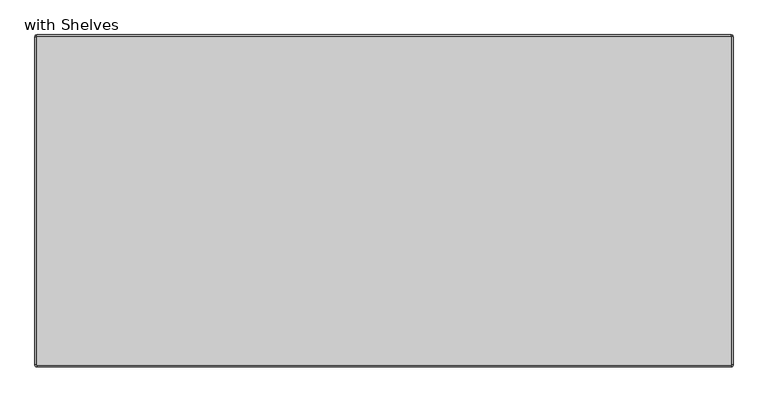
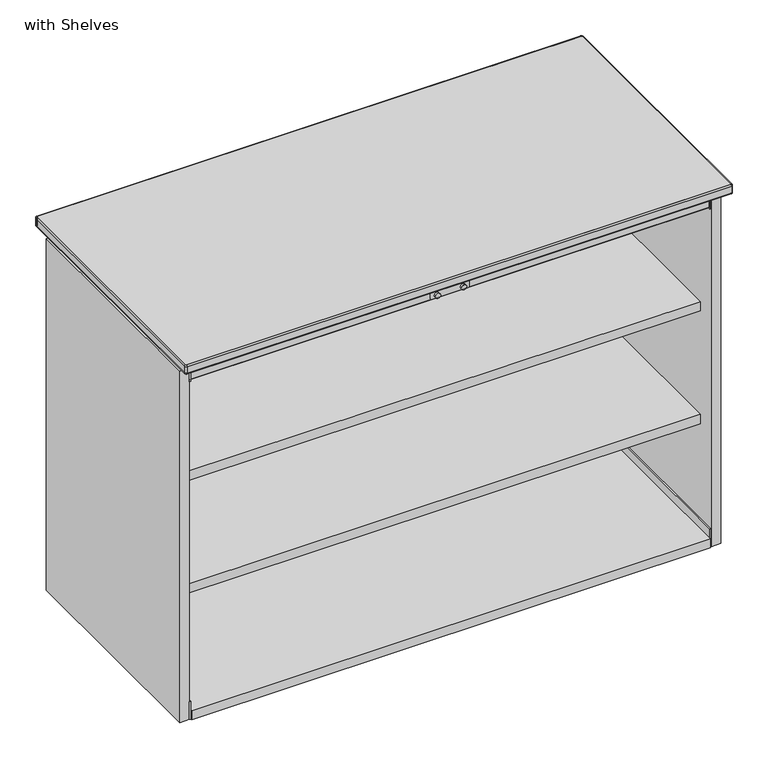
"""IFC4 building model written with IfcOpenShell, lengths in millimetres: furniture geometry, SmithSystem_AM_Storage_Education_Constellate_StandAlone_MidUnit : with Shelves."""

from ifc_helpers import new_model, si_unit, point, frame, frame_2d, origin, place, context, project, spatial, polyline, circle_curve, ellipse_curve, trimmed, segment, composite_curve, outline, extrude, source, transform, mapped, element, save
from ifc_brep_helpers import plane_surface, cylinder_surface, revolved_surface, advanced_brep


def with_shelves_f9349fdc(model_context):
    return source(origin(), model_context, "Body", "SolidModel", [
        extrude(outline(composite_curve([segment(polyline([(-530.86, -250.952), (-530.86, 250.952)]), True, "CONTINUOUS"), segment(trimmed(circle_curve(frame_2d((-530.352, 250.952)), 0.508), [point((-530.86, 250.952))], [point((-530.352, 251.46))], False, "CARTESIAN"), True, "CONTINUOUS"), segment(polyline([(-530.352, 251.46), (530.352, 251.46)]), True, "CONTINUOUS"), segment(trimmed(circle_curve(frame_2d((530.352, 250.952)), 0.508), [point((530.352, 251.46))], [point((530.86, 250.952))], False, "CARTESIAN"), True, "CONTINUOUS"), segment(polyline([(530.86, 250.952), (530.86, -250.952)]), True, "CONTINUOUS"), segment(trimmed(circle_curve(frame_2d((530.352, -250.952)), 0.508), [point((530.86, -250.952))], [point((530.352, -251.46))], False, "CARTESIAN"), True, "CONTINUOUS"), segment(polyline([(530.352, -251.46), (-530.352, -251.46)]), True, "CONTINUOUS"), segment(trimmed(circle_curve(frame_2d((-530.352, -250.952)), 0.508), [point((-530.352, -251.46))], [point((-530.86, -250.952))], False, "CARTESIAN"), True, "CONTINUOUS")], self_intersect=False)), frame((0.0, 0.0, 793.75), z_axis=(0.0, 0.0, 1.0), x_axis=(1.0, 0.0, 0.0)), (0.0, 0.0, 1.0), 19.05),
        advanced_brep(
        [(-530.352, -251.46, 812.8), (-530.86, -250.952, 812.8), (-533.4, -250.952, 810.26), (-530.352, -254.0, 810.26), (-530.352, -251.46, 793.75), (-530.86, -250.952, 793.75), (-530.352, -254.0, 796.29), (-533.4, -250.952, 796.29), (530.352, -254.0, 810.26), (530.352, -251.46, 812.8), (530.352, -251.46, 793.75), (530.352, -254.0, 796.29), (530.86, -250.952, 812.8), (533.4, -250.952, 810.26), (530.86, -250.952, 793.75), (533.4, -250.952, 796.29), (533.4, 250.952, 810.26), (530.86, 250.952, 812.8), (530.86, 250.952, 793.75), (533.4, 250.952, 796.29), (530.352, 251.46, 812.8), (530.352, 254.0, 810.26), (530.352, 251.46, 793.75), (530.352, 254.0, 796.29), (-530.352, 254.0, 810.26), (-530.352, 251.46, 812.8), (-530.352, 251.46, 793.75), (-530.352, 254.0, 796.29), (-530.86, 250.952, 812.8), (-533.4, 250.952, 810.26), (-530.86, 250.952, 793.75), (-533.4, 250.952, 796.29)],
        [
            (0, 1, circle_curve(frame((-530.352, -250.952, 812.8), z_axis=(0.0, 0.0, -1.0), x_axis=(-1.0, 0.0, 0.0)), 0.508)),
            (1, 2, circle_curve(frame((-530.86, -250.952, 810.26), z_axis=(0.0, -1.0, 0.0), x_axis=(1.0, 0.0, 0.0)), 2.54)),
            (2, 3, circle_curve(frame((-530.352, -250.952, 810.26), z_axis=(0.0, 0.0, 1.0), x_axis=(-1.0, 0.0, 0.0)), 3.048)),
            (3, 0, circle_curve(frame((-530.352, -251.46, 810.26), z_axis=(-1.0, 0.0, 0.0), x_axis=(0.0, 1.0, 0.0)), 2.54)),
            (4, 5, circle_curve(frame((-530.352, -250.952, 793.75), z_axis=(0.0, 0.0, -1.0), x_axis=(-1.0, 0.0, 0.0)), 0.508)),
            (5, 1),
            (0, 4),
            (6, 7, circle_curve(frame((-530.352, -250.952, 796.29), z_axis=(0.0, 0.0, -1.0), x_axis=(-1.0, 0.0, 0.0)), 3.048)),
            (7, 5, circle_curve(frame((-530.86, -250.952, 796.29), z_axis=(0.0, -1.0, 0.0), x_axis=(1.0, 0.0, 0.0)), 2.54)),
            (4, 6, circle_curve(frame((-530.352, -251.46, 796.29), z_axis=(-1.0, 0.0, 0.0), x_axis=(0.0, 1.0, 0.0)), 2.54)),
            (2, 7),
            (6, 3),
            (3, 8),
            (8, 9, circle_curve(frame((530.352, -251.46, 810.26), z_axis=(-1.0, 0.0, 0.0), x_axis=(0.0, 1.0, 0.0)), 2.54)),
            (9, 0),
            (9, 10),
            (10, 4),
            (10, 11, circle_curve(frame((530.352, -251.46, 796.29), z_axis=(-1.0, 0.0, 0.0), x_axis=(0.0, 1.0, 0.0)), 2.54)),
            (11, 6),
            (11, 8),
            (12, 9, circle_curve(frame((530.352, -250.952, 812.8), z_axis=(0.0, 0.0, -1.0), x_axis=(0.0, -1.0, 0.0)), 0.508)),
            (8, 13, circle_curve(frame((530.352, -250.952, 810.26), z_axis=(0.0, 0.0, 1.0), x_axis=(0.0, -1.0, 0.0)), 3.048)),
            (13, 12, circle_curve(frame((530.86, -250.952, 810.26), z_axis=(0.0, -1.0, 0.0), x_axis=(-1.0, 0.0, 0.0)), 2.54)),
            (14, 10, circle_curve(frame((530.352, -250.952, 793.75), z_axis=(0.0, 0.0, -1.0), x_axis=(0.0, -1.0, 0.0)), 0.508)),
            (12, 14),
            (15, 11, circle_curve(frame((530.352, -250.952, 796.29), z_axis=(0.0, 0.0, -1.0), x_axis=(0.0, -1.0, 0.0)), 3.048)),
            (14, 15, circle_curve(frame((530.86, -250.952, 796.29), z_axis=(0.0, -1.0, 0.0), x_axis=(-1.0, 0.0, 0.0)), 2.54)),
            (15, 13),
            (13, 16),
            (16, 17, circle_curve(frame((530.86, 250.952, 810.26), z_axis=(0.0, -1.0, 0.0), x_axis=(-1.0, 0.0, 0.0)), 2.54)),
            (17, 12),
            (17, 18),
            (18, 14),
            (18, 19, circle_curve(frame((530.86, 250.952, 796.29), z_axis=(0.0, -1.0, 0.0), x_axis=(-1.0, 0.0, 0.0)), 2.54)),
            (19, 15),
            (19, 16),
            (20, 17, circle_curve(frame((530.352, 250.952, 812.8), z_axis=(0.0, 0.0, -1.0), x_axis=(1.0, 0.0, 0.0)), 0.508)),
            (16, 21, circle_curve(frame((530.352, 250.952, 810.26), z_axis=(0.0, 0.0, 1.0), x_axis=(1.0, 0.0, 0.0)), 3.048)),
            (21, 20, circle_curve(frame((530.352, 251.46, 810.26), z_axis=(1.0, 0.0, 0.0), x_axis=(0.0, -1.0, 0.0)), 2.54)),
            (22, 18, circle_curve(frame((530.352, 250.952, 793.75), z_axis=(0.0, 0.0, -1.0), x_axis=(1.0, 0.0, 0.0)), 0.508)),
            (20, 22),
            (23, 19, circle_curve(frame((530.352, 250.952, 796.29), z_axis=(0.0, 0.0, -1.0), x_axis=(1.0, 0.0, 0.0)), 3.048)),
            (22, 23, circle_curve(frame((530.352, 251.46, 796.29), z_axis=(1.0, 0.0, 0.0), x_axis=(0.0, -1.0, 0.0)), 2.54)),
            (23, 21),
            (21, 24),
            (24, 25, circle_curve(frame((-530.352, 251.46, 810.26), z_axis=(1.0, 0.0, 0.0), x_axis=(0.0, -1.0, 0.0)), 2.54)),
            (25, 20),
            (25, 26),
            (26, 22),
            (26, 27, circle_curve(frame((-530.352, 251.46, 796.29), z_axis=(1.0, 0.0, 0.0), x_axis=(0.0, -1.0, 0.0)), 2.54)),
            (27, 23),
            (27, 24),
            (28, 25, circle_curve(frame((-530.352, 250.952, 812.8), z_axis=(0.0, 0.0, -1.0), x_axis=(0.0, 1.0, 0.0)), 0.508)),
            (24, 29, circle_curve(frame((-530.352, 250.952, 810.26), z_axis=(0.0, 0.0, 1.0), x_axis=(0.0, 1.0, 0.0)), 3.048)),
            (29, 28, circle_curve(frame((-530.86, 250.952, 810.26), z_axis=(0.0, 1.0, 0.0), x_axis=(1.0, 0.0, 0.0)), 2.54)),
            (30, 26, circle_curve(frame((-530.352, 250.952, 793.75), z_axis=(0.0, 0.0, -1.0), x_axis=(0.0, 1.0, 0.0)), 0.508)),
            (28, 30),
            (31, 27, circle_curve(frame((-530.352, 250.952, 796.29), z_axis=(0.0, 0.0, -1.0), x_axis=(0.0, 1.0, 0.0)), 3.048)),
            (30, 31, circle_curve(frame((-530.86, 250.952, 796.29), z_axis=(0.0, 1.0, 0.0), x_axis=(1.0, 0.0, 0.0)), 2.54)),
            (31, 29),
            (29, 2),
            (1, 28),
            (5, 30),
            (7, 31),
        ],
        [
            revolved_surface(trimmed(ellipse_curve(frame((-530.86, -250.952, 810.26), z_axis=(0.0, 1.0, 0.0), x_axis=(1.0, 0.0, 0.0)), 2.54, 2.54), [point((-533.4, -250.952, 810.26))], [point((-530.86, -250.952, 812.8))], True, "CARTESIAN"), (-530.352, -250.952, 0.0), (0.0, 0.0, 1.0)),
            revolved_surface(polyline([(-530.86, -250.952, 812.8), (-530.86, -250.952, 793.75)]), (-530.352, -250.952, 0.0), (0.0, 0.0, 1.0)),
            revolved_surface(trimmed(ellipse_curve(frame((-530.86, -250.952, 796.29), z_axis=(0.0, 1.0, 0.0), x_axis=(1.0, 0.0, 0.0)), 2.54, 2.54), [point((-530.86, -250.952, 793.75))], [point((-533.4, -250.952, 796.29))], True, "CARTESIAN"), (-530.352, -250.952, 0.0), (0.0, 0.0, 1.0)),
            cylinder_surface(frame((-530.352, -250.952, 0.0), z_axis=(0.0, 0.0, 1.0), x_axis=(-1.0, 0.0, 0.0)), 3.048),
            cylinder_surface(frame((-530.352, -251.46, 810.26), z_axis=(-1.0, 0.0, 0.0), x_axis=(0.0, 1.0, 0.0)), 2.54),
            plane_surface(frame((-530.352, -251.46, 812.8), z_axis=(0.0, 1.0, 0.0), x_axis=(1.0, 0.0, 0.0))),
            cylinder_surface(frame((-530.352, -251.46, 796.29), z_axis=(-1.0, 0.0, 0.0), x_axis=(0.0, 1.0, 0.0)), 2.54),
            plane_surface(frame((-530.352, -254.0, 796.29), z_axis=(0.0, -1.0, 0.0), x_axis=(1.0, 0.0, 0.0))),
            revolved_surface(trimmed(ellipse_curve(frame((530.352, -251.46, 810.26), z_axis=(-1.0, 0.0, 0.0), x_axis=(0.0, 1.0, 0.0)), 2.54, 2.54), [point((530.352, -254.0, 810.26))], [point((530.352, -251.46, 812.8))], True, "CARTESIAN"), (530.352, -250.952, 0.0), (0.0, 0.0, 1.0)),
            revolved_surface(polyline([(530.352, -251.46, 812.8), (530.352, -251.46, 793.75)]), (530.352, -250.952, 0.0), (0.0, 0.0, 1.0)),
            revolved_surface(trimmed(ellipse_curve(frame((530.352, -251.46, 796.29), z_axis=(-1.0, 0.0, 0.0), x_axis=(0.0, 1.0, 0.0)), 2.54, 2.54), [point((530.352, -251.46, 793.75))], [point((530.352, -254.0, 796.29))], True, "CARTESIAN"), (530.352, -250.952, 0.0), (0.0, 0.0, 1.0)),
            cylinder_surface(frame((530.352, -250.952, 0.0), z_axis=(0.0, 0.0, 1.0), x_axis=(0.0, -1.0, 0.0)), 3.048),
            cylinder_surface(frame((530.86, -250.952, 810.26), z_axis=(0.0, -1.0, 0.0), x_axis=(-1.0, 0.0, 0.0)), 2.54),
            plane_surface(frame((530.86, -250.952, 812.8), z_axis=(-1.0, 0.0, 0.0), x_axis=(0.0, 1.0, 0.0))),
            cylinder_surface(frame((530.86, -250.952, 796.29), z_axis=(0.0, -1.0, 0.0), x_axis=(-1.0, 0.0, 0.0)), 2.54),
            plane_surface(frame((533.4, -250.952, 796.29), z_axis=(1.0, 0.0, 0.0), x_axis=(0.0, 1.0, 0.0))),
            revolved_surface(trimmed(ellipse_curve(frame((530.86, 250.952, 810.26), z_axis=(0.0, -1.0, 0.0), x_axis=(-1.0, 0.0, 0.0)), 2.54, 2.54), [point((533.4, 250.952, 810.26))], [point((530.86, 250.952, 812.8))], True, "CARTESIAN"), (530.352, 250.952, 0.0), (0.0, 0.0, 1.0)),
            revolved_surface(polyline([(530.86, 250.952, 812.8), (530.86, 250.952, 793.75)]), (530.352, 250.952, 0.0), (0.0, 0.0, 1.0)),
            revolved_surface(trimmed(ellipse_curve(frame((530.86, 250.952, 796.29), z_axis=(0.0, -1.0, 0.0), x_axis=(-1.0, 0.0, 0.0)), 2.54, 2.54), [point((530.86, 250.952, 793.75))], [point((533.4, 250.952, 796.29))], True, "CARTESIAN"), (530.352, 250.952, 0.0), (0.0, 0.0, 1.0)),
            cylinder_surface(frame((530.352, 250.952, 0.0), z_axis=(0.0, 0.0, 1.0), x_axis=(1.0, 0.0, 0.0)), 3.048),
            cylinder_surface(frame((530.352, 251.46, 810.26), z_axis=(1.0, 0.0, 0.0), x_axis=(0.0, -1.0, 0.0)), 2.54),
            plane_surface(frame((530.352, 251.46, 812.8), z_axis=(0.0, -1.0, 0.0), x_axis=(-1.0, 0.0, 0.0))),
            cylinder_surface(frame((530.352, 251.46, 796.29), z_axis=(1.0, 0.0, 0.0), x_axis=(0.0, -1.0, 0.0)), 2.54),
            plane_surface(frame((530.352, 254.0, 796.29), z_axis=(0.0, 1.0, 0.0), x_axis=(-1.0, 0.0, 0.0))),
            revolved_surface(trimmed(ellipse_curve(frame((-530.352, 251.46, 810.26), z_axis=(1.0, 0.0, 0.0), x_axis=(0.0, -1.0, 0.0)), 2.54, 2.54), [point((-530.352, 254.0, 810.26))], [point((-530.352, 251.46, 812.8))], True, "CARTESIAN"), (-530.352, 250.952, 0.0), (0.0, 0.0, 1.0)),
            revolved_surface(polyline([(-530.352, 251.46, 812.8), (-530.352, 251.46, 793.75)]), (-530.352, 250.952, 0.0), (0.0, 0.0, 1.0)),
            revolved_surface(trimmed(ellipse_curve(frame((-530.352, 251.46, 796.29), z_axis=(1.0, 0.0, 0.0), x_axis=(0.0, -1.0, 0.0)), 2.54, 2.54), [point((-530.352, 251.46, 793.75))], [point((-530.352, 254.0, 796.29))], True, "CARTESIAN"), (-530.352, 250.952, 0.0), (0.0, 0.0, 1.0)),
            cylinder_surface(frame((-530.352, 250.952, 0.0), z_axis=(0.0, 0.0, 1.0), x_axis=(0.0, 1.0, 0.0)), 3.048),
            cylinder_surface(frame((-530.86, 250.952, 810.26), z_axis=(0.0, 1.0, 0.0), x_axis=(1.0, 0.0, 0.0)), 2.54),
            plane_surface(frame((-530.86, 250.952, 812.8), z_axis=(1.0, 0.0, 0.0), x_axis=(0.0, -1.0, 0.0))),
            cylinder_surface(frame((-530.86, 250.952, 796.29), z_axis=(0.0, 1.0, 0.0), x_axis=(1.0, 0.0, 0.0)), 2.54),
            plane_surface(frame((-533.4, 250.952, 796.29), z_axis=(-1.0, 0.0, 0.0), x_axis=(0.0, -1.0, 0.0))),
        ],
        [
            (0, [[1, 2, 3, 4]]),
            (1, [[5, 6, -1, 7]]),
            (2, [[8, 9, -5, 10]]),
            (3, [[-3, 11, -8, 12]]),
            (4, [[-4, 13, 14, 15]]),
            (5, [[-7, -15, 16, 17]]),
            (6, [[-10, -17, 18, 19]]),
            (7, [[-12, -19, 20, -13]]),
            (8, [[21, -14, 22, 23]]),
            (9, [[24, -16, -21, 25]]),
            (10, [[26, -18, -24, 27]]),
            (11, [[-22, -20, -26, 28]]),
            (12, [[-23, 29, 30, 31]]),
            (13, [[-25, -31, 32, 33]]),
            (14, [[-27, -33, 34, 35]]),
            (15, [[-28, -35, 36, -29]]),
            (16, [[37, -30, 38, 39]]),
            (17, [[40, -32, -37, 41]]),
            (18, [[42, -34, -40, 43]]),
            (19, [[-38, -36, -42, 44]]),
            (20, [[-39, 45, 46, 47]]),
            (21, [[-41, -47, 48, 49]]),
            (22, [[-43, -49, 50, 51]]),
            (23, [[-44, -51, 52, -45]]),
            (24, [[53, -46, 54, 55]]),
            (25, [[56, -48, -53, 57]]),
            (26, [[58, -50, -56, 59]]),
            (27, [[-54, -52, -58, 60]]),
            (28, [[-55, 61, -2, 62]]),
            (29, [[-57, -62, -6, 63]]),
            (30, [[-59, -63, -9, 64]]),
            (31, [[-60, -64, -11, -61]]),
        ],
    ),
        extrude(outline(composite_curve([segment(trimmed(circle_curve(frame_2d((762.0, -25.4)), 5.08), [point((762.0, -20.32))], [point((762.0, -30.48))], False, "CARTESIAN"), True, "CONTINUOUS"), segment(trimmed(circle_curve(frame_2d((762.0, -25.4)), 5.08), [point((762.0, -30.48))], [point((762.0, -20.32))], False, "CARTESIAN"), True, "CONTINUOUS")], self_intersect=False)), frame((0.0, -226.06, 0.0), z_axis=(0.0, 1.0, 0.0), x_axis=(0.0, 0.0, 1.0)), (0.0, 0.0, 1.0), 5.08),
        extrude(outline(composite_curve([segment(trimmed(circle_curve(frame_2d((762.0, 25.4)), 5.08), [point((762.0, 30.48))], [point((762.0, 20.32))], False, "CARTESIAN"), True, "CONTINUOUS"), segment(trimmed(circle_curve(frame_2d((762.0, 25.4)), 5.08), [point((762.0, 20.32))], [point((762.0, 30.48))], False, "CARTESIAN"), True, "CONTINUOUS")], self_intersect=False)), frame((0.0, -226.06, 0.0), z_axis=(0.0, 1.0, 0.0), x_axis=(0.0, 0.0, 1.0)), (0.0, 0.0, 1.0), 5.08),
        extrude(outline(composite_curve([segment(polyline([(781.05, 34.29), (781.05, -34.29)]), True, "CONTINUOUS"), segment(trimmed(circle_curve(frame_2d((777.24, -34.29)), 3.81), [point((781.05, -34.29))], [point((777.24, -38.1))], False, "CARTESIAN"), True, "CONTINUOUS"), segment(polyline([(777.24, -38.1), (759.46, -38.1)]), True, "CONTINUOUS"), segment(trimmed(circle_curve(frame_2d((759.46, -34.29)), 3.81), [point((759.46, -38.1))], [point((755.65, -34.29))], False, "CARTESIAN"), True, "CONTINUOUS"), segment(polyline([(755.65, -34.29), (755.65, 34.29)]), True, "CONTINUOUS"), segment(trimmed(circle_curve(frame_2d((759.46, 34.29)), 3.81), [point((755.65, 34.29))], [point((759.46, 38.1))], False, "CARTESIAN"), True, "CONTINUOUS"), segment(polyline([(759.46, 38.1), (777.24, 38.1)]), True, "CONTINUOUS"), segment(trimmed(circle_curve(frame_2d((777.24, 34.29)), 3.81), [point((777.24, 38.1))], [point((781.05, 34.29))], False, "CARTESIAN"), True, "CONTINUOUS")], self_intersect=False)), frame((0.0, -222.25, 0.0), z_axis=(0.0, 1.0, 0.0), x_axis=(0.0, 0.0, 1.0)), (0.0, 0.0, 1.0), 1.27),
        advanced_brep(
        [(-480.06, 190.5, 791.21), (-482.6, 187.96, 791.21), (-505.46, 187.96, 791.21), (-505.46, 132.08, 791.21), (-508.0, 132.08, 791.21), (-508.0, 187.96, 791.21), (-526.3060512, 206.2660512, 791.21), (-527.05, 208.0621024, 791.21), (-527.05, 226.06, 791.21), (-508.0, 226.06, 791.21), (-508.0, 198.12, 791.21), (-505.46, 198.12, 791.21), (-505.46, 226.06, 791.21), (-480.06, 226.06, 791.21), (-480.06, -185.42, 791.21), (-480.06, -195.58, 791.21), (-505.46, -195.58, 791.21), (-505.46, -182.88, 791.21), (-482.6, -182.88, 791.21), (-508.0, -223.52, 791.21), (-527.05, -223.52, 791.21), (-527.05, -202.9821024, 791.21), (-526.3060512, -201.1860512, 791.21), (-508.0, -182.88, 791.21), (-480.06, 190.5, 793.75), (-480.06, 228.6, 793.75), (-505.46, 228.6, 793.75), (-505.46, 226.06, 793.75), (-527.05, 226.06, 793.75), (-527.05, 208.0621024, 793.75), (-526.3060512, 206.2660512, 793.75), (-508.0, 187.96, 793.75), (-508.0, -182.88, 793.75), (-526.3060512, -201.1860512, 793.75), (-527.05, -202.9821024, 793.75), (-527.05, -223.52, 793.75), (-505.46, -223.52, 793.75), (-505.46, -195.58, 793.75), (-480.06, -195.58, 793.75), (-480.06, -185.42, 793.75), (-482.6, -182.88, 793.75), (-505.46, -182.88, 793.75), (-505.46, 187.96, 793.75), (-482.6, 187.96, 793.75), (-480.06, 226.06, 758.19), (-480.06, 228.6, 758.19), (-485.14, 228.6, 753.11), (-505.46, 228.6, 753.11), (-505.46, 226.06, 753.11), (-508.0, 226.06, 753.11), (-485.14, 226.06, 753.11), (-508.0, -223.52, 753.11), (-508.0, 132.08, 781.05), (-508.0, 198.12, 781.05), (-508.0, -17.78, 791.21), (-508.0, -17.78, 781.05), (-508.0, 48.26, 781.05), (-508.0, 48.26, 791.21), (-508.0, -167.64, 791.21), (-508.0, -167.64, 781.05), (-508.0, -101.6, 781.05), (-508.0, -101.6, 791.21), (-505.46, -223.52, 753.11), (-505.46, 198.12, 781.05), (-505.46, 132.08, 781.05), (-505.46, -17.78, 791.21), (-505.46, 48.26, 791.21), (-505.46, 48.26, 781.05), (-505.46, -17.78, 781.05), (-505.46, -167.64, 791.21), (-505.46, -101.6, 791.21), (-505.46, -101.6, 781.05), (-505.46, -167.64, 781.05)],
        [
            (0, 1, circle_curve(frame((-482.6, 190.5, 791.21), z_axis=(0.0, 0.0, -1.0), x_axis=(-1.0, 0.0, 0.0)), 2.54)),
            (1, 2),
            (2, 3),
            (3, 4),
            (4, 5),
            (5, 6),
            (6, 7, circle_curve(frame((-524.51, 208.0621024, 791.21), z_axis=(0.0, 0.0, -1.0), x_axis=(-1.0, 0.0, 0.0)), 2.54)),
            (7, 8),
            (8, 9),
            (9, 10),
            (10, 11),
            (11, 12),
            (12, 13),
            (13, 0),
            (14, 15),
            (15, 16),
            (16, 17),
            (17, 18),
            (18, 14, circle_curve(frame((-482.6, -185.42, 791.21), z_axis=(0.0, 0.0, -1.0), x_axis=(-1.0, 0.0, 0.0)), 2.54)),
            (19, 20),
            (20, 21),
            (21, 22, circle_curve(frame((-524.51, -202.9821024, 791.21), z_axis=(0.0, 0.0, -1.0), x_axis=(-1.0, 0.0, 0.0)), 2.54)),
            (22, 23),
            (23, 19),
            (24, 25),
            (25, 26),
            (26, 27),
            (27, 28),
            (28, 29),
            (29, 30, circle_curve(frame((-524.51, 208.0621024, 793.75), z_axis=(0.0, 0.0, 1.0), x_axis=(-1.0, 0.0, 0.0)), 2.54)),
            (30, 31),
            (31, 32),
            (32, 33),
            (33, 34, circle_curve(frame((-524.51, -202.9821024, 793.75), z_axis=(0.0, 0.0, 1.0), x_axis=(-1.0, 0.0, 0.0)), 2.54)),
            (34, 35),
            (35, 36),
            (36, 37),
            (37, 38),
            (38, 39),
            (39, 40, circle_curve(frame((-482.6, -185.42, 793.75), z_axis=(0.0, 0.0, 1.0), x_axis=(-1.0, 0.0, 0.0)), 2.54)),
            (40, 41),
            (41, 42),
            (42, 43),
            (43, 24, circle_curve(frame((-482.6, 190.5, 793.75), z_axis=(0.0, 0.0, 1.0), x_axis=(-1.0, 0.0, 0.0)), 2.54)),
            (24, 0),
            (13, 44),
            (44, 45),
            (45, 25),
            (45, 46, circle_curve(frame((-485.14, 228.6, 758.19), z_axis=(0.0, 1.0, 0.0), x_axis=(-1.0, 0.0, 0.0)), 5.08)),
            (46, 47),
            (47, 26),
            (47, 48),
            (48, 27),
            (8, 28),
            (48, 49),
            (49, 9),
            (7, 29),
            (1, 43),
            (42, 2),
            (48, 50),
            (50, 44, circle_curve(frame((-485.14, 226.06, 758.19), z_axis=(0.0, -1.0, 0.0), x_axis=(-1.0, 0.0, 0.0)), 5.08)),
            (12, 48),
            (50, 46),
            (49, 51),
            (51, 19),
            (23, 32),
            (31, 5),
            (4, 52, circle_curve(frame((-508.0, 132.08, 786.13), z_axis=(1.0, 0.0, 0.0), x_axis=(0.0, 1.0, 0.0)), 5.08)),
            (52, 53),
            (53, 10, circle_curve(frame((-508.0, 198.12, 786.13), z_axis=(1.0, 0.0, 0.0), x_axis=(0.0, 1.0, 0.0)), 5.08)),
            (54, 55, circle_curve(frame((-508.0, -17.78, 786.13), z_axis=(1.0, 0.0, 0.0), x_axis=(0.0, 1.0, 0.0)), 5.08)),
            (55, 56),
            (56, 57, circle_curve(frame((-508.0, 48.26, 786.13), z_axis=(1.0, 0.0, 0.0), x_axis=(0.0, 1.0, 0.0)), 5.08)),
            (57, 54),
            (58, 59, circle_curve(frame((-508.0, -167.64, 786.13), z_axis=(1.0, 0.0, 0.0), x_axis=(0.0, 1.0, 0.0)), 5.08)),
            (59, 60),
            (60, 61, circle_curve(frame((-508.0, -101.6, 786.13), z_axis=(1.0, 0.0, 0.0), x_axis=(0.0, 1.0, 0.0)), 5.08)),
            (61, 58),
            (62, 48),
            (11, 63, circle_curve(frame((-505.46, 198.12, 786.13), z_axis=(-1.0, 0.0, 0.0), x_axis=(0.0, 1.0, 0.0)), 5.08)),
            (63, 64),
            (64, 3, circle_curve(frame((-505.46, 132.08, 786.13), z_axis=(-1.0, 0.0, 0.0), x_axis=(0.0, 1.0, 0.0)), 5.08)),
            (41, 17),
            (16, 37),
            (36, 62),
            (65, 66),
            (66, 67, circle_curve(frame((-505.46, 48.26, 786.13), z_axis=(-1.0, 0.0, 0.0), x_axis=(0.0, 1.0, 0.0)), 5.08)),
            (67, 68),
            (68, 65, circle_curve(frame((-505.46, -17.78, 786.13), z_axis=(-1.0, 0.0, 0.0), x_axis=(0.0, 1.0, 0.0)), 5.08)),
            (69, 70),
            (70, 71, circle_curve(frame((-505.46, -101.6, 786.13), z_axis=(-1.0, 0.0, 0.0), x_axis=(0.0, 1.0, 0.0)), 5.08)),
            (71, 72),
            (72, 69, circle_curve(frame((-505.46, -167.64, 786.13), z_axis=(-1.0, 0.0, 0.0), x_axis=(0.0, 1.0, 0.0)), 5.08)),
            (62, 51),
            (57, 66),
            (65, 54),
            (56, 67),
            (55, 68),
            (53, 63),
            (52, 64),
            (61, 70),
            (69, 58),
            (60, 71),
            (59, 72),
            (6, 30),
            (18, 40),
            (39, 14),
            (22, 33),
            (21, 34),
            (20, 35),
            (38, 15),
        ],
        [
            plane_surface(frame((-480.06, 228.6, 791.21), z_axis=(0.0, 0.0, -1.0), x_axis=(0.0, -1.0, 0.0))),
            plane_surface(frame((-480.06, 228.6, 793.75), z_axis=(0.0, 0.0, 1.0), x_axis=(0.0, 1.0, 0.0))),
            plane_surface(frame((-480.06, 190.5, 793.75), z_axis=(1.0, 0.0, 0.0), x_axis=(0.0, 0.0, -1.0))),
            plane_surface(frame((-480.06, 228.6, 793.75), z_axis=(0.0, 1.0, 0.0), x_axis=(0.0, 0.0, -1.0))),
            plane_surface(frame((-505.46, 228.6, 793.75), z_axis=(-1.0, 0.0, 0.0), x_axis=(0.0, 0.0, -1.0))),
            plane_surface(frame((-505.46, 226.06, 793.75), z_axis=(0.0, 1.0, 0.0), x_axis=(0.0, 0.0, -1.0))),
            plane_surface(frame((-527.05, 226.06, 793.75), z_axis=(-1.0, 0.0, 0.0), x_axis=(0.0, 0.0, -1.0))),
            plane_surface(frame((-508.0, 187.96, 793.75), z_axis=(0.0, -1.0, 0.0), x_axis=(0.0, 0.0, -1.0))),
            cylinder_surface(frame((-482.6, 190.5, 791.21), z_axis=(0.0, 0.0, 1.0), x_axis=(-1.0, 0.0, 0.0)), 2.54),
            plane_surface(frame((-490.22, 226.06, 127.0), z_axis=(0.0, -1.0, 0.0), x_axis=(0.0, 0.0, -1.0))),
            cylinder_surface(frame((-485.14, 254.0, 758.19), z_axis=(0.0, 1.0, 0.0), x_axis=(-1.0, 0.0, 0.0)), 5.08),
            plane_surface(frame((-485.14, 228.6, 753.11), z_axis=(0.0, 0.0, -1.0), x_axis=(0.0, -1.0, 0.0))),
            plane_surface(frame((-508.0, 226.06, 753.11), z_axis=(-1.0, 0.0, 0.0), x_axis=(0.0, -1.0, 0.0))),
            plane_surface(frame((-505.46, 226.06, 753.11), z_axis=(1.0, 0.0, 0.0), x_axis=(0.0, 1.0, 0.0))),
            plane_surface(frame((-505.46, -223.52, 753.11), z_axis=(0.0, 0.0, -1.0), x_axis=(-1.0, 0.0, 0.0))),
            plane_surface(frame((-505.46, -17.78, 791.21), z_axis=(0.0, 0.0, -1.0), x_axis=(-1.0, 0.0, 0.0))),
            revolved_surface(polyline([(-508.0, 53.339999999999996, 786.13), (-505.46, 53.339999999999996, 786.13)]), (-505.46, 48.26, 786.13), (-1.0, 0.0, 0.0)),
            plane_surface(frame((-505.46, 48.26, 781.05), z_axis=(0.0, 0.0, 1.0), x_axis=(-1.0, 0.0, 0.0))),
            revolved_surface(polyline([(-508.0, -12.700000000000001, 786.13), (-505.46, -12.700000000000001, 786.13)]), (-505.46, -17.78, 786.13), (-1.0, 0.0, 0.0)),
            revolved_surface(polyline([(-508.0, 203.20000000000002, 786.13), (-505.46, 203.20000000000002, 786.13)]), (-505.46, 198.12, 786.13), (-1.0, 0.0, 0.0)),
            plane_surface(frame((-505.46, 198.12, 781.05), z_axis=(0.0, 0.0, 1.0), x_axis=(-1.0, 0.0, 0.0))),
            revolved_surface(polyline([(-508.0, 137.16000000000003, 786.13), (-505.46, 137.16000000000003, 786.13)]), (-505.46, 132.08, 786.13), (-1.0, 0.0, 0.0)),
            plane_surface(frame((-505.46, -167.64, 791.21), z_axis=(0.0, 0.0, -1.0), x_axis=(-1.0, 0.0, 0.0))),
            revolved_surface(polyline([(-508.0, -96.52, 786.13), (-505.46, -96.52, 786.13)]), (-505.46, -101.6, 786.13), (-1.0, 0.0, 0.0)),
            plane_surface(frame((-505.46, -101.6, 781.05), z_axis=(0.0, 0.0, 1.0), x_axis=(-1.0, 0.0, 0.0))),
            revolved_surface(polyline([(-508.0, -162.55999999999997, 786.13), (-505.46, -162.55999999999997, 786.13)]), (-505.46, -167.64, 786.13), (-1.0, 0.0, 0.0)),
            cylinder_surface(frame((-524.51, 208.0621024, 791.21), z_axis=(0.0, 0.0, 1.0), x_axis=(-1.0, 0.0, 0.0)), 2.54),
            plane_surface(frame((-526.3060512, 206.2660512, 793.75), z_axis=(-0.7071067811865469, -0.7071067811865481, 0.0), x_axis=(0.0, 0.0, -1.0))),
            cylinder_surface(frame((-482.6, -185.42, 793.75), z_axis=(0.0, 0.0, 1.0), x_axis=(-1.0, 0.0, 0.0)), 2.54),
            plane_surface(frame((-482.6, -182.88, 793.75), z_axis=(0.0, 1.0, 0.0), x_axis=(0.0, 0.0, -1.0))),
            plane_surface(frame((-508.0, -182.88, 793.75), z_axis=(-0.7071067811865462, 0.7071067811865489, 0.0), x_axis=(0.0, 0.0, -1.0))),
            cylinder_surface(frame((-524.51, -202.9821024, 793.75), z_axis=(0.0, 0.0, 1.0), x_axis=(-1.0, 0.0, 0.0)), 2.54),
            plane_surface(frame((-527.05, -202.9821024, 793.75), z_axis=(-1.0, 0.0, 0.0), x_axis=(0.0, 0.0, -1.0))),
            plane_surface(frame((-527.05, -223.52, 793.75), z_axis=(0.0, -1.0, 0.0), x_axis=(0.0, 0.0, -1.0))),
            plane_surface(frame((-480.06, -195.58, 793.75), z_axis=(1.0, 0.0, 0.0), x_axis=(0.0, 0.0, -1.0))),
            plane_surface(frame((-508.0, -195.58, 793.75), z_axis=(0.0, -1.0, 0.0), x_axis=(0.0, 0.0, -1.0))),
        ],
        [
            (0, [[1, 2, 3, 4, 5, 6, 7, 8, 9, 10, 11, 12, 13, 14]]),
            (0, [[15, 16, 17, 18, 19]]),
            (0, [[20, 21, 22, 23, 24]]),
            (1, [[25, 26, 27, 28, 29, 30, 31, 32, 33, 34, 35, 36, 37, 38, 39, 40, 41, 42, 43, 44]]),
            (2, [[-25, 45, -14, 46, 47, 48]]),
            (3, [[-26, -48, 49, 50, 51]]),
            (4, [[-27, -51, 52, 53]]),
            (5, [[54, -28, -53, 55, 56, -9]]),
            (6, [[-8, 57, -29, -54]]),
            (7, [[58, -43, 59, -2]]),
            (8, [[-1, -45, -44, -58]]),
            (9, [[60, 61, -46, -13, 62]]),
            (10, [[-49, -47, -61, 63]]),
            (11, [[-50, -63, -60, -52]]),
            (12, [[64, 65, -24, 66, -32, 67, -5, 68, 69, 70, -10, -56], [71, 72, 73, 74], [75, 76, 77, 78]]),
            (13, [[79, -62, -12, 80, 81, 82, -3, -59, -42, 83, -17, 84, -37, 85], [86, 87, 88, 89], [90, 91, 92, 93]]),
            (14, [[-64, -55, -79, 94]]),
            (15, [[-74, 95, -86, 96]]),
            (16, [[-73, 97, -87, -95]]),
            (17, [[-72, 98, -88, -97]]),
            (18, [[-71, -96, -89, -98]]),
            (19, [[-70, 99, -80, -11]]),
            (20, [[-69, 100, -81, -99]]),
            (21, [[-68, -4, -82, -100]]),
            (22, [[-78, 101, -90, 102]]),
            (23, [[-77, 103, -91, -101]]),
            (24, [[-76, 104, -92, -103]]),
            (25, [[-75, -102, -93, -104]]),
            (26, [[-7, 105, -30, -57]]),
            (27, [[-6, -67, -31, -105]]),
            (28, [[-19, 106, -40, 107]]),
            (29, [[-106, -18, -83, -41]]),
            (30, [[-23, 108, -33, -66]]),
            (31, [[-22, 109, -34, -108]]),
            (32, [[-21, 110, -35, -109]]),
            (33, [[-20, -65, -94, -85, -36, -110]]),
            (34, [[-15, -107, -39, 111]]),
            (35, [[-111, -38, -84, -16]]),
        ],
    ),
        advanced_brep(
        [(527.05, 226.06, 791.21), (527.05, 208.0621024, 791.21), (526.3060512, 206.2660512, 791.21), (508.0, 187.96, 791.21), (508.0, 132.08, 791.21), (505.46, 132.08, 791.21), (505.46, 187.96, 791.21), (482.6, 187.96, 791.21), (480.06, 190.5, 791.21), (480.06, 226.06, 791.21), (505.46, 226.06, 791.21), (505.46, 198.12, 791.21), (508.0, 198.12, 791.21), (508.0, 226.06, 791.21), (480.06, -185.42, 791.21), (482.6, -182.88, 791.21), (505.46, -182.88, 791.21), (505.46, -195.58, 791.21), (480.06, -195.58, 791.21), (508.0, -182.88, 791.21), (526.3060512, -201.1860512, 791.21), (527.05, -202.9821024, 791.21), (527.05, -223.52, 791.21), (508.0, -223.52, 791.21), (480.06, 190.5, 793.75), (482.6, 187.96, 793.75), (505.46, 187.96, 793.75), (505.46, -182.88, 793.75), (482.6, -182.88, 793.75), (480.06, -185.42, 793.75), (480.06, -195.58, 793.75), (505.46, -195.58, 793.75), (505.46, -223.52, 793.75), (527.05, -223.52, 793.75), (527.05, -202.9821024, 793.75), (526.3060512, -201.1860512, 793.75), (508.0, -182.88, 793.75), (508.0, 187.96, 793.75), (526.3060512, 206.2660512, 793.75), (527.05, 208.0621024, 793.75), (527.05, 226.06, 793.75), (505.46, 226.06, 793.75), (505.46, 228.6, 793.75), (480.06, 228.6, 793.75), (505.46, 228.6, 753.11), (485.14, 228.6, 753.11), (480.06, 228.6, 758.19), (508.0, 226.06, 753.11), (505.46, 226.06, 753.11), (480.06, 226.06, 758.19), (485.14, 226.06, 753.11), (508.0, -223.52, 753.11), (508.0, 198.12, 781.05), (508.0, 132.08, 781.05), (508.0, -17.78, 791.21), (508.0, 48.26, 791.21), (508.0, 48.26, 781.05), (508.0, -17.78, 781.05), (508.0, -167.64, 791.21), (508.0, -101.6, 791.21), (508.0, -101.6, 781.05), (508.0, -167.64, 781.05), (505.46, -223.52, 753.11), (505.46, 132.08, 781.05), (505.46, 198.12, 781.05), (505.46, -17.78, 791.21), (505.46, -17.78, 781.05), (505.46, 48.26, 781.05), (505.46, 48.26, 791.21), (505.46, -167.64, 791.21), (505.46, -167.64, 781.05), (505.46, -101.6, 781.05), (505.46, -101.6, 791.21)],
        [
            (0, 1),
            (1, 2, circle_curve(frame((524.51, 208.0621024, 791.21), z_axis=(0.0, 0.0, -1.0), x_axis=(-1.0, 0.0, 0.0)), 2.54)),
            (2, 3),
            (3, 4),
            (4, 5),
            (5, 6),
            (6, 7),
            (7, 8, circle_curve(frame((482.6, 190.5, 791.21), z_axis=(0.0, 0.0, -1.0), x_axis=(-1.0, 0.0, 0.0)), 2.54)),
            (8, 9),
            (9, 10),
            (10, 11),
            (11, 12),
            (12, 13),
            (13, 0),
            (14, 15, circle_curve(frame((482.6, -185.42, 791.21), z_axis=(0.0, 0.0, -1.0), x_axis=(-1.0, 0.0, 0.0)), 2.54)),
            (15, 16),
            (16, 17),
            (17, 18),
            (18, 14),
            (19, 20),
            (20, 21, circle_curve(frame((524.51, -202.9821024, 791.21), z_axis=(0.0, 0.0, -1.0), x_axis=(-1.0, 0.0, 0.0)), 2.54)),
            (21, 22),
            (22, 23),
            (23, 19),
            (24, 25, circle_curve(frame((482.6, 190.5, 793.75), z_axis=(0.0, 0.0, 1.0), x_axis=(-1.0, 0.0, 0.0)), 2.54)),
            (25, 26),
            (26, 27),
            (27, 28),
            (28, 29, circle_curve(frame((482.6, -185.42, 793.75), z_axis=(0.0, 0.0, 1.0), x_axis=(-1.0, 0.0, 0.0)), 2.54)),
            (29, 30),
            (30, 31),
            (31, 32),
            (32, 33),
            (33, 34),
            (34, 35, circle_curve(frame((524.51, -202.9821024, 793.75), z_axis=(0.0, 0.0, 1.0), x_axis=(-1.0, 0.0, 0.0)), 2.54)),
            (35, 36),
            (36, 37),
            (37, 38),
            (38, 39, circle_curve(frame((524.51, 208.0621024, 793.75), z_axis=(0.0, 0.0, 1.0), x_axis=(-1.0, 0.0, 0.0)), 2.54)),
            (39, 40),
            (40, 41),
            (41, 42),
            (42, 43),
            (43, 24),
            (42, 44),
            (44, 45),
            (45, 46, circle_curve(frame((485.14, 228.6, 758.19), z_axis=(0.0, 1.0, 0.0), x_axis=(-1.0, 0.0, 0.0)), 5.08)),
            (46, 43),
            (7, 25),
            (24, 8),
            (6, 26),
            (0, 40),
            (39, 1),
            (13, 47),
            (47, 48),
            (48, 41),
            (48, 44),
            (46, 49),
            (49, 9),
            (49, 50, circle_curve(frame((485.14, 226.06, 758.19), z_axis=(0.0, -1.0, 0.0), x_axis=(-1.0, 0.0, 0.0)), 5.08)),
            (50, 48),
            (48, 10),
            (50, 45),
            (51, 47),
            (12, 52, circle_curve(frame((508.0, 198.12, 786.13), z_axis=(-1.0, 0.0, 0.0), x_axis=(0.0, 1.0, 0.0)), 5.08)),
            (52, 53),
            (53, 4, circle_curve(frame((508.0, 132.08, 786.13), z_axis=(-1.0, 0.0, 0.0), x_axis=(0.0, 1.0, 0.0)), 5.08)),
            (3, 37),
            (36, 19),
            (23, 51),
            (54, 55),
            (55, 56, circle_curve(frame((508.0, 48.26, 786.13), z_axis=(-1.0, 0.0, 0.0), x_axis=(0.0, 1.0, 0.0)), 5.08)),
            (56, 57),
            (57, 54, circle_curve(frame((508.0, -17.78, 786.13), z_axis=(-1.0, 0.0, 0.0), x_axis=(0.0, 1.0, 0.0)), 5.08)),
            (58, 59),
            (59, 60, circle_curve(frame((508.0, -101.6, 786.13), z_axis=(-1.0, 0.0, 0.0), x_axis=(0.0, 1.0, 0.0)), 5.08)),
            (60, 61),
            (61, 58, circle_curve(frame((508.0, -167.64, 786.13), z_axis=(-1.0, 0.0, 0.0), x_axis=(0.0, 1.0, 0.0)), 5.08)),
            (48, 62),
            (62, 32),
            (31, 17),
            (16, 27),
            (5, 63, circle_curve(frame((505.46, 132.08, 786.13), z_axis=(1.0, 0.0, 0.0), x_axis=(0.0, 1.0, 0.0)), 5.08)),
            (63, 64),
            (64, 11, circle_curve(frame((505.46, 198.12, 786.13), z_axis=(1.0, 0.0, 0.0), x_axis=(0.0, 1.0, 0.0)), 5.08)),
            (65, 66, circle_curve(frame((505.46, -17.78, 786.13), z_axis=(1.0, 0.0, 0.0), x_axis=(0.0, 1.0, 0.0)), 5.08)),
            (66, 67),
            (67, 68, circle_curve(frame((505.46, 48.26, 786.13), z_axis=(1.0, 0.0, 0.0), x_axis=(0.0, 1.0, 0.0)), 5.08)),
            (68, 65),
            (69, 70, circle_curve(frame((505.46, -167.64, 786.13), z_axis=(1.0, 0.0, 0.0), x_axis=(0.0, 1.0, 0.0)), 5.08)),
            (70, 71),
            (71, 72, circle_curve(frame((505.46, -101.6, 786.13), z_axis=(1.0, 0.0, 0.0), x_axis=(0.0, 1.0, 0.0)), 5.08)),
            (72, 69),
            (51, 62),
            (64, 52),
            (63, 53),
            (54, 65),
            (68, 55),
            (67, 56),
            (66, 57),
            (58, 69),
            (72, 59),
            (71, 60),
            (70, 61),
            (2, 38),
            (18, 30),
            (29, 14),
            (22, 33),
            (21, 34),
            (20, 35),
            (15, 28),
        ],
        [
            plane_surface(frame((-480.06, 228.6, 791.21), z_axis=(0.0, 0.0, -1.0), x_axis=(0.0, -1.0, 0.0))),
            plane_surface(frame((-480.06, 228.6, 793.75), z_axis=(0.0, 0.0, 1.0), x_axis=(0.0, 1.0, 0.0))),
            plane_surface(frame((-480.06, 228.6, 793.75), z_axis=(0.0, 1.0, 0.0), x_axis=(0.0, 0.0, -1.0))),
            cylinder_surface(frame((482.6, 190.5, 793.75), z_axis=(0.0, 0.0, 1.0), x_axis=(-1.0, 0.0, 0.0)), 2.54),
            plane_surface(frame((482.6, 187.96, 793.75), z_axis=(0.0, -1.0, 0.0), x_axis=(0.0, 0.0, -1.0))),
            plane_surface(frame((527.05, 208.0621024, 793.75), z_axis=(1.0, 0.0, 0.0), x_axis=(0.0, 0.0, -1.0))),
            plane_surface(frame((527.05, 226.06, 793.75), z_axis=(0.0, 1.0, 0.0), x_axis=(0.0, 0.0, -1.0))),
            plane_surface(frame((505.46, 226.06, 793.75), z_axis=(1.0, 0.0, 0.0), x_axis=(0.0, 0.0, -1.0))),
            plane_surface(frame((480.06, 228.6, 793.75), z_axis=(-1.0, 0.0, 0.0), x_axis=(0.0, 0.0, -1.0))),
            plane_surface(frame((-490.22, 226.06, 127.0), z_axis=(0.0, -1.0, 0.0), x_axis=(0.0, 0.0, -1.0))),
            plane_surface(frame((505.46, 228.6, 753.11), z_axis=(0.0, 0.0, -1.0), x_axis=(0.0, -1.0, 0.0))),
            cylinder_surface(frame((485.14, 254.0, 758.19), z_axis=(0.0, 1.0, 0.0), x_axis=(-1.0, 0.0, 0.0)), 5.08),
            plane_surface(frame((508.0, 226.06, 793.75), z_axis=(1.0, 0.0, 0.0), x_axis=(0.0, -1.0, 0.0))),
            plane_surface(frame((505.46, 226.06, 793.75), z_axis=(-1.0, 0.0, 0.0), x_axis=(0.0, 1.0, 0.0))),
            plane_surface(frame((505.46, 226.06, 753.11), z_axis=(0.0, 0.0, -1.0), x_axis=(1.0, 0.0, 0.0))),
            revolved_surface(polyline([(508.0, 203.20000000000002, 786.13), (505.46, 203.20000000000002, 786.13)]), (505.46, 198.12, 786.13), (1.0, 0.0, 0.0)),
            plane_surface(frame((505.46, 132.08, 781.05), z_axis=(0.0, 0.0, 1.0), x_axis=(1.0, 0.0, 0.0))),
            revolved_surface(polyline([(508.0, 137.16000000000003, 786.13), (505.46, 137.16000000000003, 786.13)]), (505.46, 132.08, 786.13), (1.0, 0.0, 0.0)),
            plane_surface(frame((505.46, 48.26, 791.21), z_axis=(0.0, 0.0, -1.0), x_axis=(1.0, 0.0, 0.0))),
            revolved_surface(polyline([(508.0, 53.339999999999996, 786.13), (505.46, 53.339999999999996, 786.13)]), (505.46, 48.26, 786.13), (1.0, 0.0, 0.0)),
            plane_surface(frame((505.46, -17.78, 781.05), z_axis=(0.0, 0.0, 1.0), x_axis=(1.0, 0.0, 0.0))),
            revolved_surface(polyline([(508.0, -12.700000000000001, 786.13), (505.46, -12.700000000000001, 786.13)]), (505.46, -17.78, 786.13), (1.0, 0.0, 0.0)),
            plane_surface(frame((505.46, -101.6, 791.21), z_axis=(0.0, 0.0, -1.0), x_axis=(1.0, 0.0, 0.0))),
            revolved_surface(polyline([(508.0, -96.52, 786.13), (505.46, -96.52, 786.13)]), (505.46, -101.6, 786.13), (1.0, 0.0, 0.0)),
            plane_surface(frame((505.46, -167.64, 781.05), z_axis=(0.0, 0.0, 1.0), x_axis=(1.0, 0.0, 0.0))),
            revolved_surface(polyline([(508.0, -162.55999999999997, 786.13), (505.46, -162.55999999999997, 786.13)]), (505.46, -167.64, 786.13), (1.0, 0.0, 0.0)),
            plane_surface(frame((508.0, 187.96, 793.75), z_axis=(0.7071067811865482, -0.7071067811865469, 0.0), x_axis=(0.0, 0.0, -1.0))),
            cylinder_surface(frame((524.51, 208.0621024, 793.75), z_axis=(0.0, 0.0, 1.0), x_axis=(-1.0, 0.0, 0.0)), 2.54),
            plane_surface(frame((480.06, -185.42, 793.75), z_axis=(-1.0, 0.0, 0.0), x_axis=(0.0, 0.0, -1.0))),
            plane_surface(frame((508.0, -223.52, 793.75), z_axis=(0.0, -1.0, 0.0), x_axis=(0.0, 0.0, -1.0))),
            plane_surface(frame((527.05, -223.52, 793.75), z_axis=(1.0, 0.0, 0.0), x_axis=(0.0, 0.0, -1.0))),
            cylinder_surface(frame((524.51, -202.9821024, 793.75), z_axis=(0.0, 0.0, 1.0), x_axis=(-1.0, 0.0, 0.0)), 2.54),
            plane_surface(frame((526.3060512, -201.1860512, 793.75), z_axis=(0.7071067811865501, 0.7071067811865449, 0.0), x_axis=(0.0, 0.0, -1.0))),
            plane_surface(frame((508.0, -182.88, 793.75), z_axis=(0.0, 1.0, 0.0), x_axis=(0.0, 0.0, -1.0))),
            cylinder_surface(frame((482.6, -185.42, 793.75), z_axis=(0.0, 0.0, 1.0), x_axis=(-1.0, 0.0, 0.0)), 2.54),
            plane_surface(frame((480.06, -195.58, 793.75), z_axis=(0.0, -1.0, 0.0), x_axis=(0.0, 0.0, -1.0))),
        ],
        [
            (0, [[1, 2, 3, 4, 5, 6, 7, 8, 9, 10, 11, 12, 13, 14]]),
            (0, [[15, 16, 17, 18, 19]]),
            (0, [[20, 21, 22, 23, 24]]),
            (1, [[25, 26, 27, 28, 29, 30, 31, 32, 33, 34, 35, 36, 37, 38, 39, 40, 41, 42, 43, 44]]),
            (2, [[-43, 45, 46, 47, 48]]),
            (3, [[-8, 49, -25, 50]]),
            (4, [[-49, -7, 51, -26]]),
            (5, [[-1, 52, -40, 53]]),
            (6, [[-41, -52, -14, 54, 55, 56]]),
            (7, [[-42, -56, 57, -45]]),
            (8, [[-44, -48, 58, 59, -9, -50]]),
            (9, [[-59, 60, 61, 62, -10]]),
            (10, [[-46, -57, -61, 63]]),
            (11, [[-47, -63, -60, -58]]),
            (12, [[64, -54, -13, 65, 66, 67, -4, 68, -37, 69, -24, 70], [71, 72, 73, 74], [75, 76, 77, 78]]),
            (13, [[79, 80, -32, 81, -17, 82, -27, -51, -6, 83, 84, 85, -11, -62], [86, 87, 88, 89], [90, 91, 92, 93]]),
            (14, [[-64, 94, -79, -55]]),
            (15, [[-65, -12, -85, 95]]),
            (16, [[-66, -95, -84, 96]]),
            (17, [[-67, -96, -83, -5]]),
            (18, [[-71, 97, -89, 98]]),
            (19, [[-72, -98, -88, 99]]),
            (20, [[-73, -99, -87, 100]]),
            (21, [[-74, -100, -86, -97]]),
            (22, [[-75, 101, -93, 102]]),
            (23, [[-76, -102, -92, 103]]),
            (24, [[-77, -103, -91, 104]]),
            (25, [[-78, -104, -90, -101]]),
            (26, [[-3, 105, -38, -68]]),
            (27, [[-2, -53, -39, -105]]),
            (28, [[-19, 106, -30, 107]]),
            (29, [[-23, 108, -33, -80, -94, -70]]),
            (30, [[-22, 109, -34, -108]]),
            (31, [[-21, 110, -35, -109]]),
            (32, [[-20, -69, -36, -110]]),
            (33, [[111, -28, -82, -16]]),
            (34, [[-15, -107, -29, -111]]),
            (35, [[-106, -18, -81, -31]]),
        ],
    ),
        advanced_brep(
        [(-485.14, 228.6, 132.08), (-480.06, 228.6, 127.0), (-480.06, 228.6, 99.06), (-485.14, 228.6, 93.98), (-508.0, 228.6, 93.98), (-508.0, 228.6, 132.08), (-485.14, 226.06, 132.08), (-508.0, 226.06, 132.08), (-508.0, 226.06, 93.98), (-485.14, 226.06, 93.98), (-480.06, 226.06, 99.06), (-480.06, 226.06, 127.0)],
        [
            (0, 1, circle_curve(frame((-485.14, 228.6, 127.0), z_axis=(0.0, 1.0, 0.0), x_axis=(-1.0, 0.0, 0.0)), 5.08)),
            (1, 2),
            (2, 3, circle_curve(frame((-485.14, 228.6, 99.06), z_axis=(0.0, 1.0, 0.0), x_axis=(-1.0, 0.0, 0.0)), 5.08)),
            (3, 4),
            (4, 5),
            (5, 0),
            (6, 7),
            (7, 8),
            (8, 9),
            (9, 10, circle_curve(frame((-485.14, 226.06, 99.06), z_axis=(0.0, -1.0, 0.0), x_axis=(-1.0, 0.0, 0.0)), 5.08)),
            (10, 11),
            (11, 6, circle_curve(frame((-485.14, 226.06, 127.0), z_axis=(0.0, -1.0, 0.0), x_axis=(-1.0, 0.0, 0.0)), 5.08)),
            (0, 6),
            (11, 1),
            (10, 2),
            (9, 3),
            (8, 4),
            (5, 7),
        ],
        [
            plane_surface(frame((-480.06, 228.6, 793.75), z_axis=(0.0, 1.0, 0.0), x_axis=(0.0, 0.0, -1.0))),
            plane_surface(frame((-490.22, 226.06, 127.0), z_axis=(0.0, -1.0, 0.0), x_axis=(0.0, 0.0, -1.0))),
            cylinder_surface(frame((-485.14, 226.06, 127.0), z_axis=(0.0, 1.0, 0.0), x_axis=(-1.0, 0.0, 0.0)), 5.08),
            plane_surface(frame((-480.06, 228.6, 127.0), z_axis=(1.0, 0.0, 0.0), x_axis=(0.0, -1.0, 0.0))),
            cylinder_surface(frame((-485.14, 226.06, 99.06), z_axis=(0.0, 1.0, 0.0), x_axis=(-1.0, 0.0, 0.0)), 5.08),
            plane_surface(frame((-485.14, 228.6, 93.98), z_axis=(0.0, 0.0, -1.0), x_axis=(0.0, -1.0, 0.0))),
            plane_surface(frame((-508.0, 228.6, 132.08), z_axis=(0.0, 0.0, 1.0), x_axis=(0.0, -1.0, 0.0))),
            plane_surface(frame((-508.0, 228.6, 93.98), z_axis=(-1.0, 0.0, 0.0), x_axis=(0.0, -1.0, 0.0))),
        ],
        [
            (0, [[1, 2, 3, 4, 5, 6]]),
            (1, [[7, 8, 9, 10, 11, 12]]),
            (2, [[-1, 13, -12, 14]]),
            (3, [[-2, -14, -11, 15]]),
            (4, [[-3, -15, -10, 16]]),
            (5, [[-4, -16, -9, 17]]),
            (6, [[-6, 18, -7, -13]]),
            (7, [[-5, -17, -8, -18]]),
        ],
    ),
        advanced_brep(
        [(485.14, 228.6, 132.08), (508.0, 228.6, 132.08), (508.0, 228.6, 93.98), (485.14, 228.6, 93.98), (480.06, 228.6, 99.06), (480.06, 228.6, 127.0), (485.14, 226.06, 132.08), (480.06, 226.06, 127.0), (480.06, 226.06, 99.06), (485.14, 226.06, 93.98), (508.0, 226.06, 93.98), (508.0, 226.06, 132.08)],
        [
            (0, 1),
            (1, 2),
            (2, 3),
            (3, 4, circle_curve(frame((485.14, 228.6, 99.06), z_axis=(0.0, 1.0, 0.0), x_axis=(-1.0, 0.0, 0.0)), 5.08)),
            (4, 5),
            (5, 0, circle_curve(frame((485.14, 228.6, 127.0), z_axis=(0.0, 1.0, 0.0), x_axis=(-1.0, 0.0, 0.0)), 5.08)),
            (6, 7, circle_curve(frame((485.14, 226.06, 127.0), z_axis=(0.0, -1.0, 0.0), x_axis=(-1.0, 0.0, 0.0)), 5.08)),
            (7, 8),
            (8, 9, circle_curve(frame((485.14, 226.06, 99.06), z_axis=(0.0, -1.0, 0.0), x_axis=(-1.0, 0.0, 0.0)), 5.08)),
            (9, 10),
            (10, 11),
            (11, 6),
            (0, 6),
            (11, 1),
            (2, 10),
            (9, 3),
            (8, 4),
            (7, 5),
        ],
        [
            plane_surface(frame((-480.06, 228.6, 793.75), z_axis=(0.0, 1.0, 0.0), x_axis=(0.0, 0.0, -1.0))),
            plane_surface(frame((-490.22, 226.06, 127.0), z_axis=(0.0, -1.0, 0.0), x_axis=(0.0, 0.0, -1.0))),
            plane_surface(frame((485.14, 228.6, 132.08), z_axis=(0.0, 0.0, 1.0), x_axis=(0.0, -1.0, 0.0))),
            plane_surface(frame((508.0, 228.6, 93.98), z_axis=(0.0, 0.0, -1.0), x_axis=(0.0, -1.0, 0.0))),
            cylinder_surface(frame((485.14, 254.0, 99.06), z_axis=(0.0, 1.0, 0.0), x_axis=(-1.0, 0.0, 0.0)), 5.08),
            plane_surface(frame((480.06, 228.6, 99.06), z_axis=(-1.0, 0.0, 0.0), x_axis=(0.0, -1.0, 0.0))),
            cylinder_surface(frame((485.14, 254.0, 127.0), z_axis=(0.0, 1.0, 0.0), x_axis=(-1.0, 0.0, 0.0)), 5.08),
            plane_surface(frame((508.0, 228.6, 132.08), z_axis=(1.0, 0.0, 0.0), x_axis=(0.0, -1.0, 0.0))),
        ],
        [
            (0, [[1, 2, 3, 4, 5, 6]]),
            (1, [[7, 8, 9, 10, 11, 12]]),
            (2, [[-1, 13, -12, 14]]),
            (3, [[-3, 15, -10, 16]]),
            (4, [[-4, -16, -9, 17]]),
            (5, [[-5, -17, -8, 18]]),
            (6, [[-6, -18, -7, -13]]),
            (7, [[-2, -14, -11, -15]]),
        ],
    ),
        extrude(outline(polyline([(508.0, 218.44), (508.0, -187.96), (-508.0, -187.96), (-508.0, 218.44), (508.0, 218.44)])), frame((0.0, 0.0, 521.1191), z_axis=(0.0, 0.0, 1.0), x_axis=(1.0, 0.0, 0.0)), (0.0, 0.0, 1.0), 19.05),
        extrude(outline(polyline([(508.0, 218.44), (508.0, -187.96), (-508.0, -187.96), (-508.0, 218.44), (508.0, 218.44)])), frame((0.0, 0.0, 289.1409), z_axis=(0.0, 0.0, 1.0), x_axis=(1.0, 0.0, 0.0)), (0.0, 0.0, 1.0), 19.05),
        extrude(outline(polyline([(505.46, 228.6), (-505.46, 228.6), (-505.46, 247.65), (505.46, 247.65), (505.46, 228.6)])), frame((0.0, 0.0, 57.15), z_axis=(0.0, 0.0, 1.0), x_axis=(1.0, 0.0, 0.0)), (0.0, 0.0, 1.0), 736.6),
        extrude(outline(polyline([(508.0, -223.52), (505.46, -223.52), (505.46, 226.06), (508.0, 226.06), (508.0, -223.52)])), frame((0.0, 0.0, 57.15), z_axis=(0.0, 0.0, 1.0), x_axis=(1.0, 0.0, 0.0)), (0.0, 0.0, 1.0), 36.83),
        extrude(outline(polyline([(-505.46, -223.52), (-508.0, -223.52), (-508.0, 226.06), (-505.46, 226.06), (-505.46, -223.52)])), frame((0.0, 0.0, 57.15), z_axis=(0.0, 0.0, 1.0), x_axis=(1.0, 0.0, 0.0)), (0.0, 0.0, 1.0), 36.83),
        extrude(outline(polyline([(-508.0, -223.52), (-527.05, -223.52), (-527.05, 226.06), (-508.0, 226.06), (-508.0, -223.52)])), frame((0.0, 0.0, 57.15), z_axis=(0.0, 0.0, 1.0), x_axis=(1.0, 0.0, 0.0)), (0.0, 0.0, 1.0), 723.9),
        extrude(outline(polyline([(527.05, -223.52), (508.0, -223.52), (508.0, 226.06), (527.05, 226.06), (527.05, -223.52)])), frame((0.0, 0.0, 57.15), z_axis=(0.0, 0.0, 1.0), x_axis=(1.0, 0.0, 0.0)), (0.0, 0.0, 1.0), 723.9),
        extrude(outline(polyline([(505.46, 226.06), (505.46, -226.06), (-505.46, -226.06), (-505.46, 226.06), (505.46, 226.06)])), frame((0.0, 0.0, 57.15), z_axis=(0.0, 0.0, 1.0), x_axis=(1.0, 0.0, 0.0)), (0.0, 0.0, 1.0), 19.05),
        extrude(outline(composite_curve([segment(polyline([(-220.98, 793.75), (-195.58, 793.75), (-195.58, 755.65)]), True, "CONTINUOUS"), segment(trimmed(circle_curve(frame_2d((-198.12, 755.65)), 2.54), [point((-195.58, 755.65))], [point((-198.12, 753.11))], False, "CARTESIAN"), True, "CONTINUOUS"), segment(polyline([(-198.12, 753.11), (-218.44, 753.11)]), True, "CONTINUOUS"), segment(trimmed(circle_curve(frame_2d((-218.44, 755.65)), 2.54), [point((-218.44, 753.11))], [point((-220.98, 755.65))], False, "CARTESIAN"), True, "CONTINUOUS"), segment(polyline([(-220.98, 755.65), (-220.98, 793.75)]), True, "CONTINUOUS")], self_intersect=False)), frame((-505.46, 0.0, 0.0), z_axis=(1.0, 0.0, 0.0), x_axis=(0.0, 1.0, 0.0)), (0.0, 0.0, 1.0), 1010.92),
    ])


if __name__ == "__main__":
    model = new_model("IFC4")
    model_context = context("Model", 3, world=origin())
    ifc_project = project(units=[si_unit("LENGTHUNIT", "METRE", prefix="MILLI")], contexts=[model_context])
    site = spatial("IfcSite", under=ifc_project)
    building = spatial("IfcBuilding", under=site)
    placement = place(None, origin())
    with_shelves_shape = with_shelves_f9349fdc(model_context)
    element("IfcFurniture", 1, ObjectType="SmithSystem_AM_Storage_Education_Constellate_StandAlone_MidUnit : with Shelves", at=placement, inside=building, context=model_context, shape_type="MappedRepresentation", body=[
        mapped(with_shelves_shape, transform((0.0, 0.0, 0.0), x_axis=(1.0, 0.0, 0.0), y_axis=(0.0, 1.0, 0.0), z_axis=(0.0, 0.0, 1.0))),
    ])
    save(model, "model.ifc")
